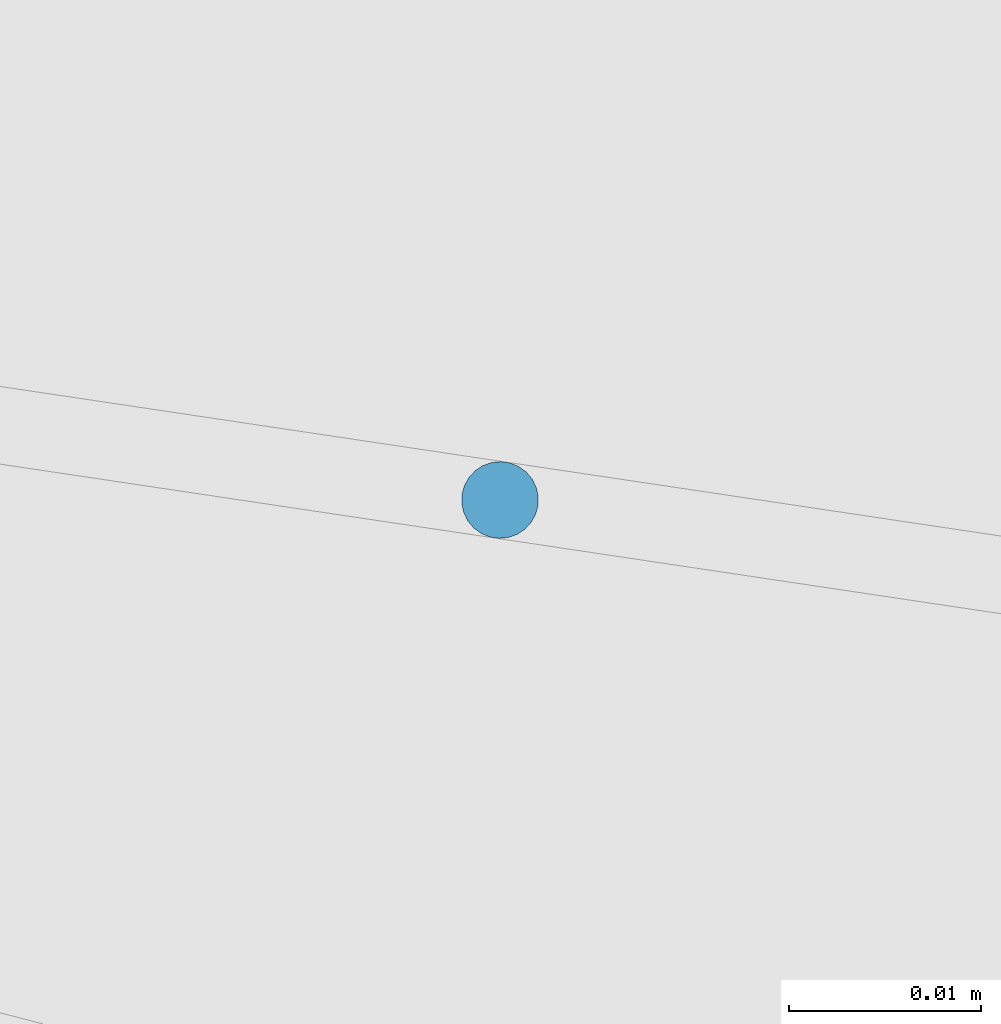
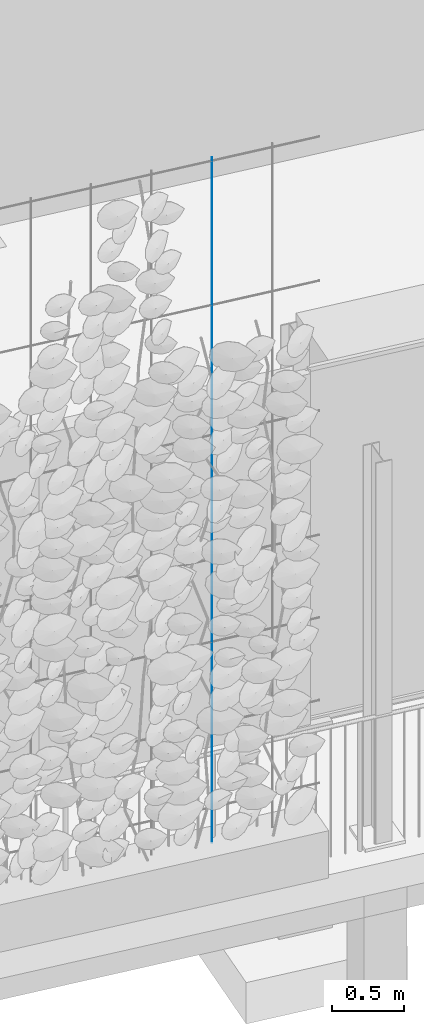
# One storey, part 24 of 142: 1 member, 1 element without a shape of its own.
"""IFC4 building model written with IfcOpenShell, lengths in metres."""

from ifc_helpers import new_model, si_unit, direction, frame, origin_with_axes, place, context, subcontext, project, spatial, circle, extrude, material, material_profile, profile_set, profile_usage, type_object, element, aggregate, save


model = new_model("IFC4")

# Units and contexts
model_context = context("Model", 3, precision=1e-05, world=origin_with_axes(), true_north=direction((0.0, 1.0)))
body_context = subcontext(model_context, "Body", "Model", "MODEL_VIEW")
ifc_project = project(units=[si_unit("AREAUNIT", "SQUARE_METRE"), si_unit("VOLUMEUNIT", "CUBIC_METRE"), si_unit("LENGTHUNIT", "METRE")], contexts=[model_context])

# Site, building, storey
site_placement = place(None, origin_with_axes())
site = spatial("IfcSite", under=ifc_project, at=site_placement, Name="Lares · Rua das Mercês · artigo 4771")
building_placement = place(site_placement, frame((15.0, 9.7, 14.65), z_axis=(0.0, 0.0, 1.0), x_axis=(0.989015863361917, -0.147809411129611, 0.0)))
building = spatial("IfcBuilding", under=site, at=building_placement, Name="Casa Sobreposta")
storey_placement = place(building_placement, origin_with_axes())
storey = spatial("IfcBuildingStorey", under=building, at=storey_placement, Name="00 · Habitação e estacionamento", Elevation=14.65)

# Assembly, member
assembly_placement = place(storey_placement, origin_with_axes())
assembly = element("IfcElementAssembly", 1, at=assembly_placement, inside=storey, Name="Fachada sul e pátio · estrutura e trepadeiras", ObjectType="LIVING_SHADE_TRELLIS", PredefinedType="USERDEFINED")
ifc_material = material(Name="Aço galvanizado / Stahl verzinkt", Category="steel")
ifc_material_profile = material_profile(ifc_material, circle(Radius=0.002))
ifc_profile_set = profile_set([ifc_material_profile], Name="D0.004")
ifc_profile_usage = profile_usage(ifc_profile_set)
member_type = type_object("IfcMemberType", Name="D0.004 / galvanized", PredefinedType="NOTDEFINED", material=ifc_profile_set)
member_placement = place(assembly_placement, frame((2.7, -1.61, 0.35), z_axis=(0.0, 0.0, 1.0), x_axis=(1.0, 0.0, 0.0)))
member = element("IfcMember", 2, at=member_placement, type_object=member_type, material=ifc_profile_usage, Name="Trepadeiras · fio vertical", context=body_context, shape_type="SweptSolid", body=[
    extrude(circle(Radius=0.002), origin_with_axes(), (0.0, 0.0, 1.0), 5.8),
])
aggregate(assembly, [member])

save(model, "model.ifc")
